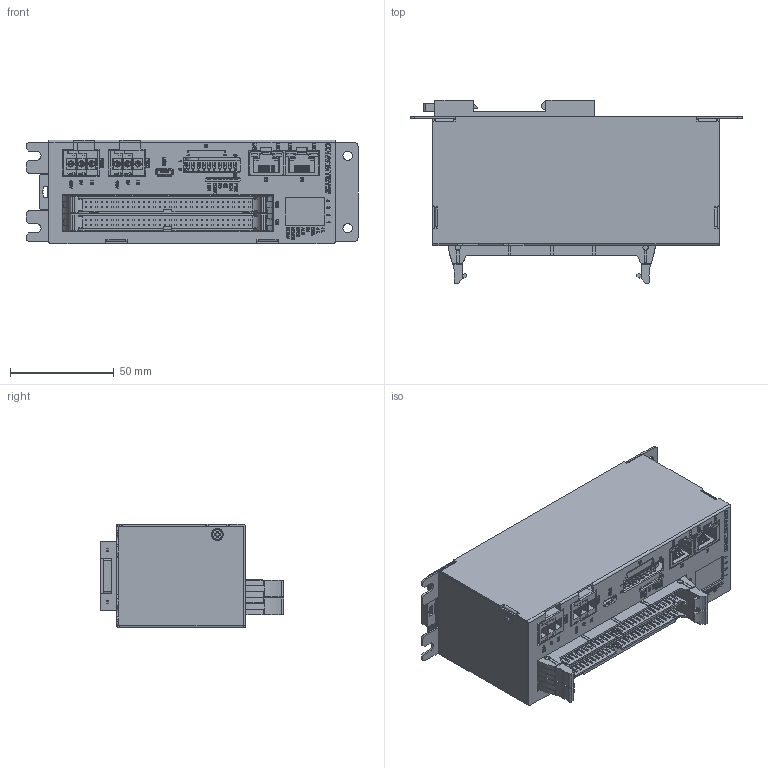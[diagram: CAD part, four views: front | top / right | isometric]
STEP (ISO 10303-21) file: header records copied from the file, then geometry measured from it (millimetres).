
FILE_DESCRIPTION((''),'2;1');
FILE_NAME('CTMM-D','2026-05-11T16:43:26',('gijyu181'),(''),'CREO PARAMETRIC BY PTC INC, 2018050','CREO PARAMETRIC BY PTC INC, 2018050','');
FILE_SCHEMA(('CONFIG_CONTROL_DESIGN','SHAPE_APPEARANCE_LAYERS_GROUPS'));
Products named in the file (1): CTMM-D
Bounding box: 160 x 88.5 x 50 mm (x, y, z)
Volume: 100381.5 mm3; surface area: 148442.5 mm2
Topology: 4 solids, 18 shells, 10371 faces, 28480 edges, 18737 vertices
Faces by surface type: plane 8127, extrusion 1325, cylinder 763, cone 72, torus 42, bspline 28, sphere 14
Entity records: 407439 total; most frequent: CARTESIAN_POINT 70733, ORIENTED_EDGE 56931, DIRECTION 46877, EDGE_CURVE 28480, VECTOR 25193, LINE 23868, VERTEX_POINT 18737, PRESENTATION_STYLE_ASSIGNMENT 12076
